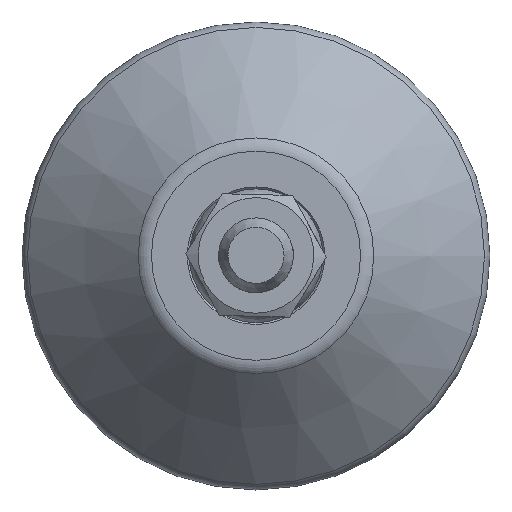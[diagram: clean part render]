
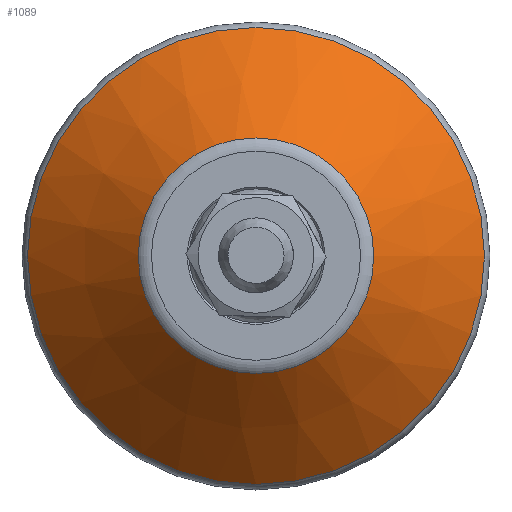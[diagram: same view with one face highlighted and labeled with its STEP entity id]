
A CAD part, top view. The second image highlights one B-rep face of the part: STEP entity #1089.
In plain terms, the highlighted conical face has half-angle 45 degrees and reference radius 18.5 mm.
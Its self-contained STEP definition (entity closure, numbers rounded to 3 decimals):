
#1089=ADVANCED_FACE('',(#2583,#2585),#2587,.T.);
#2583=FACE_BOUND('',#2584,.T.);
#2584=EDGE_LOOP('',(#3760,#3761));
#2585=FACE_BOUND('',#2586,.T.);
#2586=EDGE_LOOP('',(#3762,#3763));
#2587=CONICAL_SURFACE('',#2588,18.5,0.785);
#2588=AXIS2_PLACEMENT_3D('',#2589,#2590,#2591);
#2589=CARTESIAN_POINT('',(0.,0.,11.5));
#2590=DIRECTION('',(0.,0.,-1.));
#2591=DIRECTION('',(1.,0.,0.));
#3760=ORIENTED_EDGE('',*,*,#4501,.T.);
#3761=ORIENTED_EDGE('',*,*,#4500,.T.);
#3762=ORIENTED_EDGE('',*,*,#4504,.F.);
#3763=ORIENTED_EDGE('',*,*,#4505,.F.);
#4500=EDGE_CURVE('',#5222,#5223,#5224,.T.);
#4501=EDGE_CURVE('',#5223,#5222,#5225,.T.);
#4504=EDGE_CURVE('',#5230,#5231,#5232,.T.);
#4505=EDGE_CURVE('',#5231,#5230,#5233,.T.);
#5222=VERTEX_POINT('',#7889);
#5223=VERTEX_POINT('',#7890);
#5224=CIRCLE('',#7891,24.414);
#5225=CIRCLE('',#7895,24.414);
#5230=VERTEX_POINT('',#7909);
#5231=VERTEX_POINT('',#7910);
#5232=CIRCLE('',#7911,12.586);
#5233=CIRCLE('',#7915,12.586);
#7889=CARTESIAN_POINT('',(-24.414,0.,5.586));
#7890=CARTESIAN_POINT('',(24.414,0.,5.586));
#7891=AXIS2_PLACEMENT_3D('',#7892,#7893,#7894);
#7892=CARTESIAN_POINT('',(0.,0.,5.586));
#7893=DIRECTION('',(0.,0.,1.));
#7894=DIRECTION('',(-1.,0.,0.));
#7895=AXIS2_PLACEMENT_3D('',#7896,#7897,#7898);
#7896=CARTESIAN_POINT('',(0.,0.,5.586));
#7897=DIRECTION('',(0.,0.,1.));
#7898=DIRECTION('',(1.,0.,0.));
#7909=CARTESIAN_POINT('',(-12.586,0.,17.414));
#7910=CARTESIAN_POINT('',(12.586,0.,17.414));
#7911=AXIS2_PLACEMENT_3D('',#7912,#7913,#7914);
#7912=CARTESIAN_POINT('',(0.,0.,17.414));
#7913=DIRECTION('',(0.,0.,1.));
#7914=DIRECTION('',(-1.,0.,0.));
#7915=AXIS2_PLACEMENT_3D('',#7916,#7917,#7918);
#7916=CARTESIAN_POINT('',(0.,0.,17.414));
#7917=DIRECTION('',(0.,0.,1.));
#7918=DIRECTION('',(1.,0.,0.));
